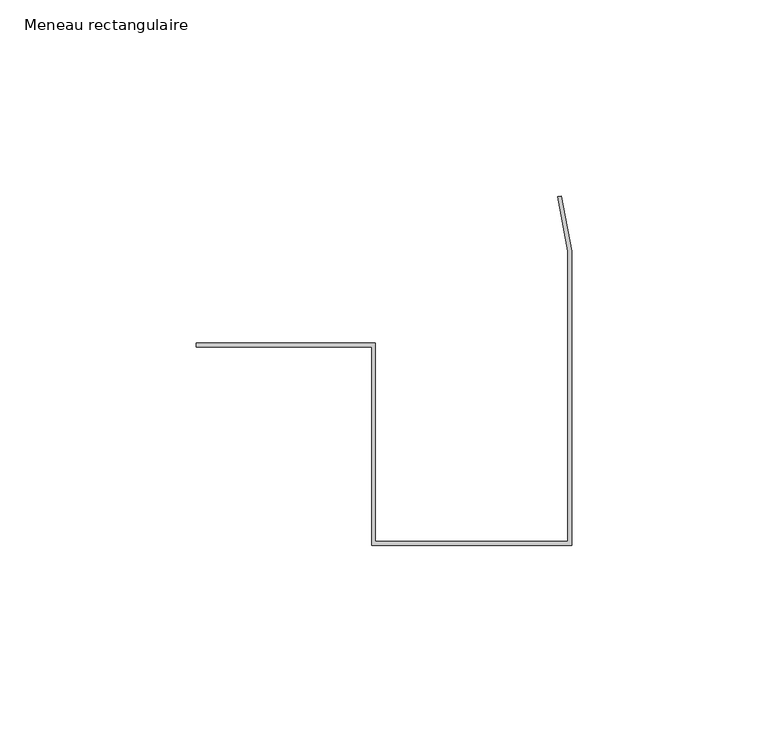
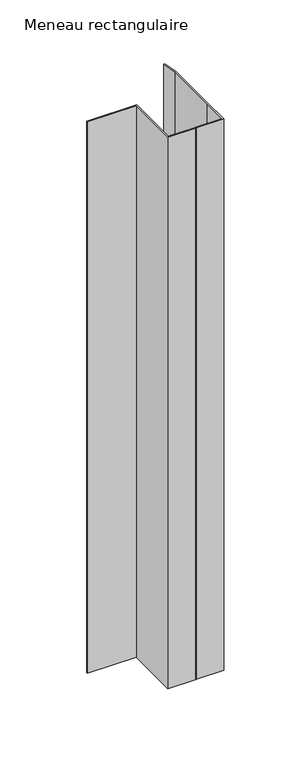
"""IFC4 building model written with IfcOpenShell, lengths in millimetres: member geometry, Meneau rectangulaire : Jonction contre mur Gauche H."""

from ifc_helpers import new_model, si_unit, frame, origin, place, context, project, spatial, polyline, outline, extrude, source, transform, mapped, element, save


def meneau_rectangulaire_228527b8(model_context):
    return source(origin(), model_context, "Body", "SweptSolid", [
        extrude(outline(polyline([(-1.0, 26.3950161), (-3.6043568, 40.2612876), (-2.6384309, 40.4427073), (0.0, 26.3950161), (0.0, -23.6049839), (0.0, -48.6049839), (-25.0, -48.6049839), (-26.0, -48.6049839), (-51.0, -48.6049839), (-51.0, 2.0), (-95.6686418, 2.0), (-95.6686418, 3.0), (-50.0, 3.0), (-50.0, -47.6049839), (-26.0, -47.6049839), (-25.0, -47.6049839), (-1.0, -47.6049839), (-1.0, -23.6049839), (-1.0, 26.3950161)])), frame((0.0, 0.0, -534.0), z_axis=(0.0, 0.0, 1.0), x_axis=(1.0, 0.0, 0.0)), (0.0, 0.0, 1.0), 534.0),
    ])


if __name__ == "__main__":
    model = new_model("IFC4")
    model_context = context("Model", 3, world=origin())
    ifc_project = project(units=[si_unit("LENGTHUNIT", "METRE", prefix="MILLI")], contexts=[model_context])
    site = spatial("IfcSite", under=ifc_project)
    building = spatial("IfcBuilding", under=site)
    placement = place(None, origin())
    meneau_rectangulaire_shape = meneau_rectangulaire_228527b8(model_context)
    element("IfcMember", 1, ObjectType="Meneau rectangulaire : Jonction contre mur Gauche H", at=placement, inside=building, context=model_context, shape_type="MappedRepresentation", body=[
        mapped(meneau_rectangulaire_shape, transform((0.0, 0.0, 0.0), x_axis=(1.0, 0.0, 0.0), y_axis=(0.0, 1.0, 0.0), z_axis=(0.0, 0.0, 1.0))),
    ])
    save(model, "model.ifc")
